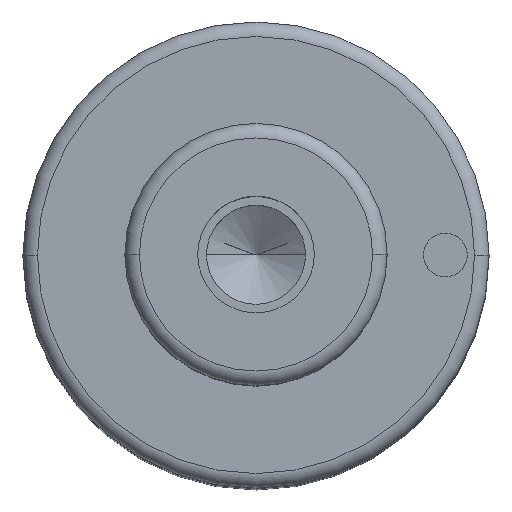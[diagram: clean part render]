
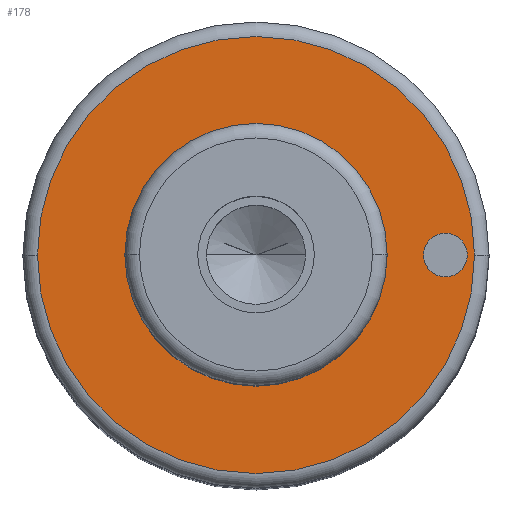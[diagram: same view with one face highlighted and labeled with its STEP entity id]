
A CAD part, top view. The second image highlights one B-rep face of the part: STEP entity #178.
In plain terms, the highlighted planar face has unit normal (0, 0, 1).
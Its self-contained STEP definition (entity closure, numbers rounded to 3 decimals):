
#105=PLANE('',#866);
#115=FACE_BOUND('',#283,.T.);
#116=FACE_BOUND('',#284,.T.);
#117=FACE_BOUND('',#285,.T.);
#178=ADVANCED_FACE('',(#115,#116,#117),#105,.T.);
#283=EDGE_LOOP('',(#473,#474));
#284=EDGE_LOOP('',(#475,#476));
#285=EDGE_LOOP('',(#477,#478));
#333=CIRCLE('',#834,9.);
#334=CIRCLE('',#836,9.);
#338=CIRCLE('',#841,15.);
#339=CIRCLE('',#843,15.);
#351=CIRCLE('',#864,1.5);
#352=CIRCLE('',#865,1.5);
#473=ORIENTED_EDGE('',*,*,#666,.F.);
#474=ORIENTED_EDGE('',*,*,#667,.F.);
#475=ORIENTED_EDGE('',*,*,#685,.F.);
#476=ORIENTED_EDGE('',*,*,#686,.F.);
#477=ORIENTED_EDGE('',*,*,#662,.T.);
#478=ORIENTED_EDGE('',*,*,#660,.T.);
#590=VERTEX_POINT('',#1233);
#591=VERTEX_POINT('',#1235);
#592=VERTEX_POINT('',#1241);
#595=VERTEX_POINT('',#1246);
#604=VERTEX_POINT('',#1285);
#605=VERTEX_POINT('',#1286);
#660=EDGE_CURVE('',#591,#590,#333,.T.);
#662=EDGE_CURVE('',#590,#591,#334,.T.);
#666=EDGE_CURVE('',#595,#592,#338,.T.);
#667=EDGE_CURVE('',#592,#595,#339,.T.);
#685=EDGE_CURVE('',#604,#605,#351,.T.);
#686=EDGE_CURVE('',#605,#604,#352,.T.);
#834=AXIS2_PLACEMENT_3D('',#1234,#985,#986);
#836=AXIS2_PLACEMENT_3D('',#1238,#990,#991);
#841=AXIS2_PLACEMENT_3D('',#1247,#1000,#1001);
#843=AXIS2_PLACEMENT_3D('',#1249,#1004,#1005);
#864=AXIS2_PLACEMENT_3D('',#1284,#1052,#1053);
#865=AXIS2_PLACEMENT_3D('',#1287,#1054,#1055);
#866=AXIS2_PLACEMENT_3D('',#1288,#1056,#1057);
#985=DIRECTION('',(0.,0.,-1.));
#986=DIRECTION('',(0.,1.,0.));
#990=DIRECTION('',(0.,0.,-1.));
#991=DIRECTION('',(0.,-1.,0.));
#1000=DIRECTION('',(0.,0.,-1.));
#1001=DIRECTION('',(0.,1.,0.));
#1004=DIRECTION('',(0.,0.,-1.));
#1005=DIRECTION('',(0.,-1.,0.));
#1052=DIRECTION('',(0.,0.,1.));
#1053=DIRECTION('',(0.,1.,0.));
#1054=DIRECTION('',(0.,0.,1.));
#1055=DIRECTION('',(0.,-1.,0.));
#1056=DIRECTION('',(0.,0.,1.));
#1057=DIRECTION('',(0.,-1.,0.));
#1233=CARTESIAN_POINT('',(-9.,0.,73.));
#1234=CARTESIAN_POINT('',(0.,0.,73.));
#1235=CARTESIAN_POINT('',(9.,0.,73.));
#1238=CARTESIAN_POINT('',(0.,0.,73.));
#1241=CARTESIAN_POINT('',(-15.,0.,73.));
#1246=CARTESIAN_POINT('',(15.,0.,73.));
#1247=CARTESIAN_POINT('',(0.,0.,73.));
#1249=CARTESIAN_POINT('',(0.,0.,73.));
#1284=CARTESIAN_POINT('',(13.,0.,73.));
#1285=CARTESIAN_POINT('',(11.5,0.,73.));
#1286=CARTESIAN_POINT('',(14.5,0.,73.));
#1287=CARTESIAN_POINT('',(13.,0.,73.));
#1288=CARTESIAN_POINT('',(0.,0.,73.));
